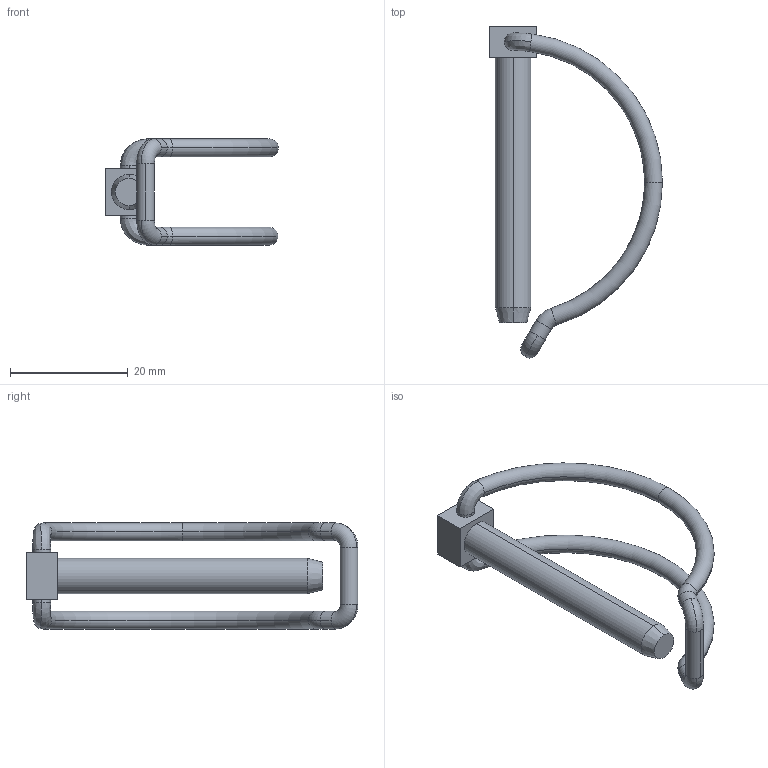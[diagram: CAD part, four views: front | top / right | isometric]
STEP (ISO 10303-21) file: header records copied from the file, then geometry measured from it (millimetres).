
FILE_DESCRIPTION (( 'STEP AP203' ), '1' );
FILE_NAME ('33320.W0063.step', '2025-02-04T13:40:27', ( '' ), ( '' ), 'SwSTEP 2.0', 'SolidWorks 2019', '' );
FILE_SCHEMA (( 'CONFIG_CONTROL_DESIGN' ));
Length unit declared in the file: millimetre
Products named in the file (3): part1_33320.W0063; Part5_33320.W0063; 33320.W0063
Assembly tree (2 placements, depth 2):
  33320.W0063
    part1_33320.W0063
    Part5_33320.W0063
Bounding box: 29.35 x 56.35 x 18 mm (x, y, z)
Volume: 2758.6 mm3; surface area: 2828.7 mm2
Topology: 2 solids, 2 shells, 43 faces, 100 edges, 62 vertices
Faces by surface type: cylinder 14, torus 14, plane 9, bspline 4, cone 2
Entity records: 1847 total; most frequent: CARTESIAN_POINT 522, DIRECTION 252, ORIENTED_EDGE 200, AXIS2_PLACEMENT_3D 112, EDGE_CURVE 100, CIRCLE 68, VERTEX_POINT 62, EDGE_LOOP 46
